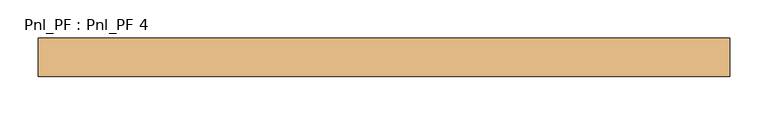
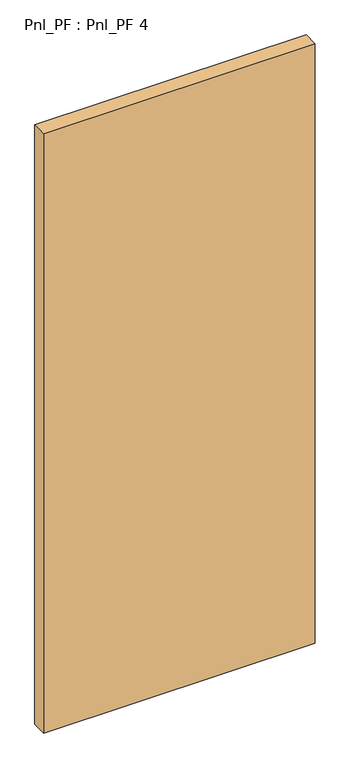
"""IFC4 building model written with IfcOpenShell, lengths in millimetres: door geometry, Pnl_PF : Pnl_PF 4."""

from ifc_helpers import new_model, si_unit, origin, origin_with_axes, place, context, project, spatial, polyline, outline, extrude, source, transform, mapped, element, save


def pnl_pf_pnl_pf_4_d502edfb(model_context):
    return source(origin(), model_context, "Body", "SweptSolid", [
        extrude(outline(polyline([(900.0, -50.0), (0.0, -50.0), (0.0, 0.0), (900.0, 0.0), (900.0, -50.0)])), origin_with_axes(), (0.0, 0.0, 1.0), 2100.0),
    ])


if __name__ == "__main__":
    model = new_model("IFC4")
    model_context = context("Model", 3, world=origin())
    ifc_project = project(units=[si_unit("LENGTHUNIT", "METRE", prefix="MILLI")], contexts=[model_context])
    site = spatial("IfcSite", under=ifc_project)
    building = spatial("IfcBuilding", under=site)
    placement = place(None, origin())
    pnl_pf_pnl_pf_4_shape = pnl_pf_pnl_pf_4_d502edfb(model_context)
    element("IfcDoor", 1, ObjectType="Pnl_PF : Pnl_PF 4", at=placement, inside=building, context=model_context, shape_type="MappedRepresentation", body=[
        mapped(pnl_pf_pnl_pf_4_shape, transform((0.0, 0.0, 0.0), x_axis=(1.0, 0.0, 0.0), y_axis=(0.0, 1.0, 0.0), z_axis=(0.0, 0.0, 1.0))),
    ])
    save(model, "model.ifc")
